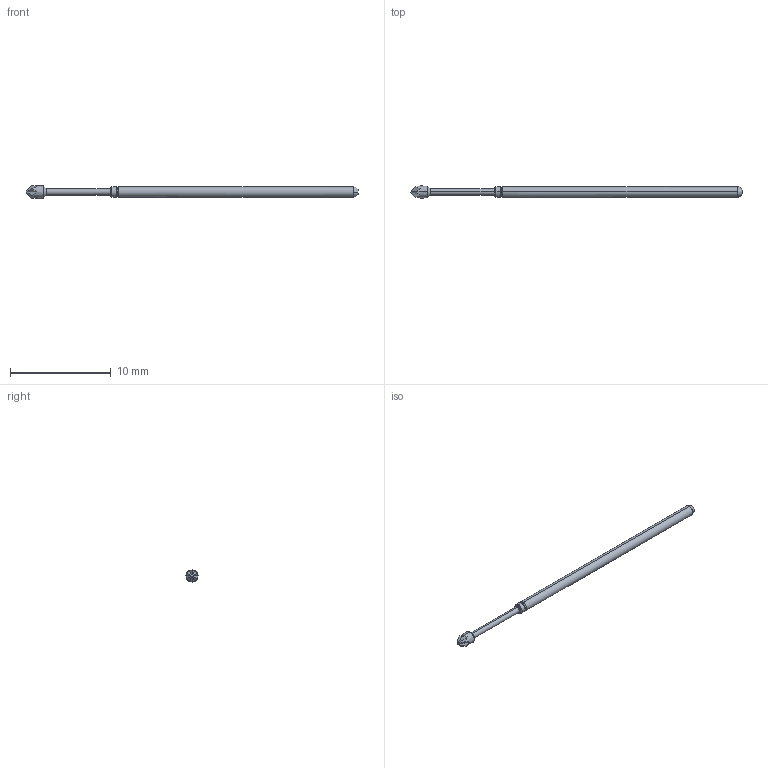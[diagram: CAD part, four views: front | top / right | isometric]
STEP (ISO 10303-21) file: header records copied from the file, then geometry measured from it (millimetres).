
FILE_DESCRIPTION (( 'STEP AP214' ), '1' );
FILE_NAME ('LPA2M.STEP', '2023-06-05T11:04:19', ( '' ), ( '' ), 'SwSTEP 2.0', 'SolidWorks 2022', '' );
FILE_SCHEMA (( 'AUTOMOTIVE_DESIGN' ));
Length unit declared in the file: inch
Products named in the file (1): LPA2M
Bounding box: 33.01 x 1.19 x 1.19 mm (x, y, z)
Volume: 23.2 mm3; surface area: 98.5 mm2
Topology: 1 solids, 1 shells, 34 faces, 68 edges, 37 vertices
Faces by surface type: bspline 34
Entity records: 1104 total; most frequent: CARTESIAN_POINT 654, ORIENTED_EDGE 136, EDGE_CURVE 68, B_SPLINE_CURVE_WITH_KNOTS 44, VERTEX_POINT 37, EDGE_LOOP 35, ADVANCED_FACE 34, FACE_OUTER_BOUND 34
